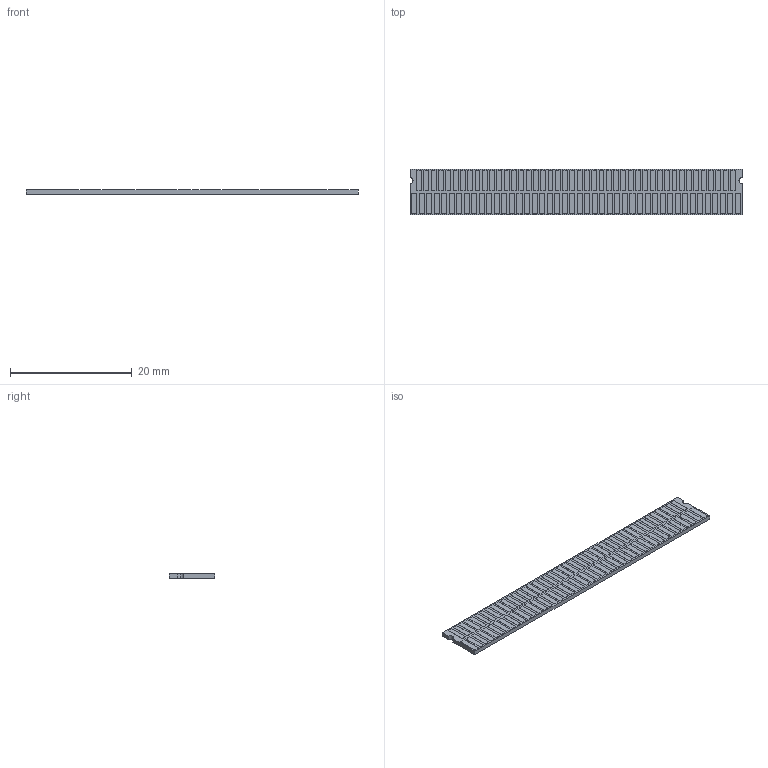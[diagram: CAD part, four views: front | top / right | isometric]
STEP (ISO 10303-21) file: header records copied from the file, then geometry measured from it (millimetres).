
FILE_DESCRIPTION (( 'STEP AP214' ), '1' );
FILE_NAME ('010462-MT065A_LZ44T2abs_32_31.STEP', '2021-12-23T09:10:46', ( '' ), ( '' ), 'SwSTEP 2.0', 'SolidWorks 2018', '' );
FILE_SCHEMA (( 'AUTOMOTIVE_DESIGN' ));
Length unit declared in the file: millimetre
Products named in the file (1): 010462-MT065A_LZ44T2abs_32_31
Bounding box: 54.6 x 7.5 x 0.77 mm (x, y, z)
Volume: 308.1 mm3; surface area: 934.9 mm2
Topology: 1 solids, 1 shells, 461 faces, 1110 edges, 740 vertices
Faces by surface type: plane 455, cylinder 6
Entity records: 18241 total; most frequent: CARTESIAN_POINT 2312, ORIENTED_EDGE 2220, DIRECTION 2046, EDGE_CURVE 1110, LINE 1098, VECTOR 1098, VERTEX_POINT 740, EDGE_LOOP 550
